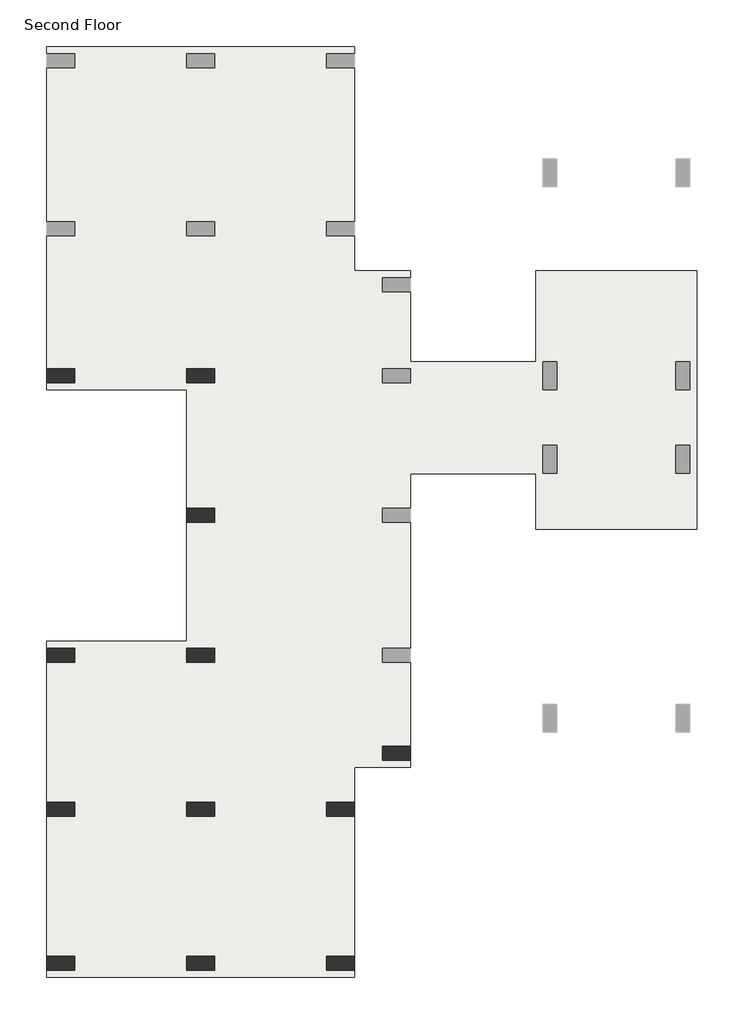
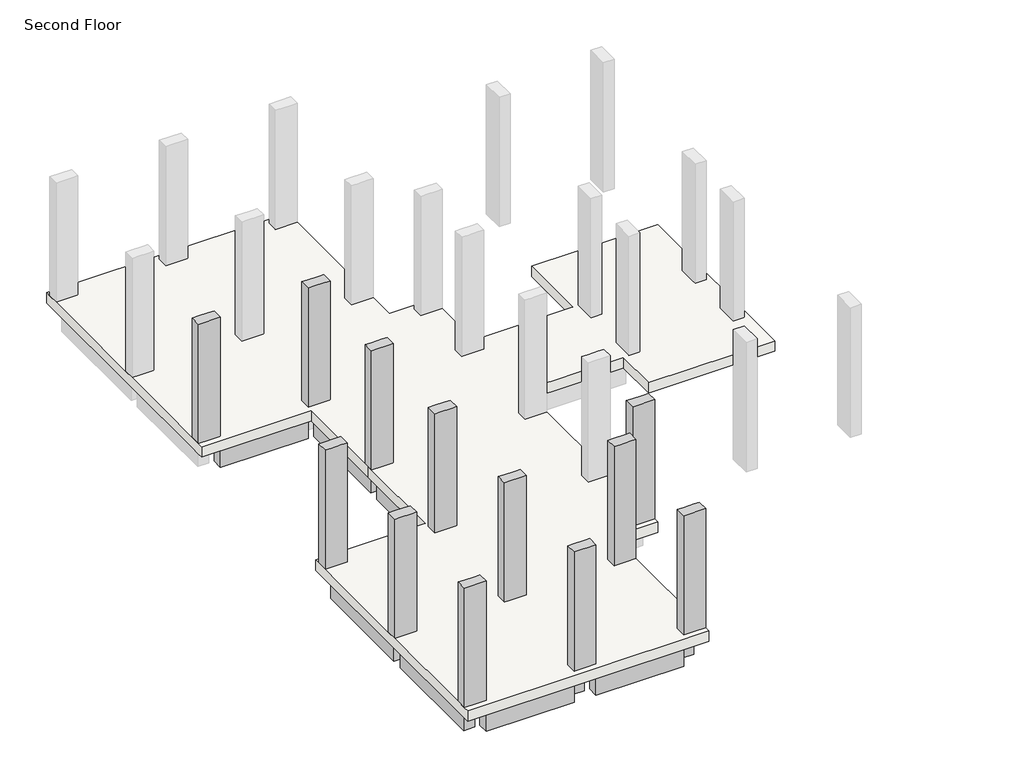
# One storey, part 1 of 2: 15 beams, 12 columns, 1 slab.
"""IFC4 building model written with IfcOpenShell, lengths in millimetres."""

from ifc_helpers import new_model, si_unit, frame, origin, place, context, project, spatial, polyline, outline, extrude, faceted_brep, element, save

model = new_model("IFC4")

# Units and contexts
model_context = context("Model", 3, world=origin())
ifc_project = project(units=[si_unit("LENGTHUNIT", "METRE", prefix="MILLI")], contexts=[model_context])

# Site, building, storey
site = spatial("IfcSite", under=ifc_project)
building = spatial("IfcBuilding", under=site)
storey = spatial("IfcBuildingStorey", under=building, Name="Second Floor", Elevation=3810.0)

# Beams
placement = place(None, origin())
element("IfcBeam", 1, ObjectType="Concrete-Rectangular Beam : 12 x 24", at=placement, inside=storey, context=model_context, shape_type="Brep", body=[
    faceted_brep([(-14712.4093661, 7313.9691779, 3505.2), (-14712.4093661, 7009.1691779, 3505.2), (-14407.6093661, 7009.1691779, 3505.2), (-13645.6093661, 7009.1691779, 3505.2), (-13645.6093661, 7313.9691779, 3505.2), (-14712.4093661, 7313.9691779, 2895.6), (-13645.6093661, 7313.9691779, 2895.6), (-14712.4093661, 7009.1691779, 2895.6), (-13645.6093661, 7009.1691779, 2895.6), (-14407.6093661, 7009.1691779, 2895.6)], [[[0, 1, 2, 3, 4]], [[5, 0, 4, 6]], [[7, 5, 6, 8, 9]], [[1, 7, 9, 8, 3, 2]], [[4, 3, 8, 6]], [[1, 0, 5, 7]]]),
])
element("IfcBeam", 2, ObjectType="Concrete-Rectangular Beam : 12 x 24", at=placement, inside=storey, context=model_context, shape_type="SweptSolid", body=[
    extrude(outline(polyline([(-14712.4093661, 7009.1691779), (-14407.6093661, 7009.1691779), (-14407.6093661, 6094.7691779), (-14712.4093661, 6094.7691779), (-14712.4093661, 7009.1691779)])), frame((0.0, 0.0, 2895.6), z_axis=(0.0, 0.0, 1.0), x_axis=(1.0, 0.0, 0.0)), (0.0, 0.0, 1.0), 609.6),
])
element("IfcBeam", 3, ObjectType="Concrete-Rectangular Beam : 12 x 24", at=placement, inside=storey, context=model_context, shape_type="SweptSolid", body=[
    extrude(outline(polyline([(-14407.6093661, 2741.9691779), (-14712.4093661, 2741.9691779), (-14712.4093661, 5789.9691779), (-14407.6093661, 5789.9691779), (-14407.6093661, 2741.9691779)])), frame((0.0, 0.0, 2895.6), z_axis=(0.0, 0.0, 1.0), x_axis=(1.0, 0.0, 0.0)), (0.0, 0.0, 1.0), 609.6),
])
element("IfcBeam", 4, ObjectType="Concrete-Rectangular Beam : 12 x 24", at=placement, inside=storey, context=model_context, shape_type="SweptSolid", body=[
    extrude(outline(polyline([(-17303.2093661, 2437.1691779), (-17303.2093661, 2741.9691779), (-14864.8093661, 2741.9691779), (-14864.8093661, 2437.1691779), (-17303.2093661, 2437.1691779)])), frame((0.0, 0.0, 2895.6), z_axis=(0.0, 0.0, 1.0), x_axis=(1.0, 0.0, 0.0)), (0.0, 0.0, 1.0), 609.6),
])
element("IfcBeam", 5, ObjectType="Concrete-Rectangular Beam : 12 x 24", at=placement, inside=storey, context=model_context, shape_type="SweptSolid", body=[
    extrude(outline(polyline([(-20351.2093661, 2437.1691779), (-20351.2093661, 2741.9691779), (-17912.8093661, 2741.9691779), (-17912.8093661, 2437.1691779), (-20351.2093661, 2437.1691779)])), frame((0.0, 0.0, 2895.6), z_axis=(0.0, 0.0, 1.0), x_axis=(1.0, 0.0, 0.0)), (0.0, 0.0, 1.0), 609.6),
])
element("IfcBeam", 6, ObjectType="Concrete-Rectangular Beam : 12 x 24", at=placement, inside=storey, context=model_context, shape_type="SweptSolid", body=[
    extrude(outline(polyline([(-20503.6093661, 2741.9691779), (-20808.4093661, 2741.9691779), (-20808.4093661, 5789.9691779), (-20503.6093661, 5789.9691779), (-20503.6093661, 2741.9691779)])), frame((0.0, 0.0, 2895.6), z_axis=(0.0, 0.0, 1.0), x_axis=(1.0, 0.0, 0.0)), (0.0, 0.0, 1.0), 609.6),
])
element("IfcBeam", 7, ObjectType="Concrete-Rectangular Beam : 12 x 24", at=placement, inside=storey, context=model_context, shape_type="SweptSolid", body=[
    extrude(outline(polyline([(-20808.4093661, 9142.7691779), (-20503.6093661, 9142.7691779), (-20503.6093661, 6094.7691779), (-20808.4093661, 6094.7691779), (-20808.4093661, 9142.7691779)])), frame((0.0, 0.0, 2895.6), z_axis=(0.0, 0.0, 1.0), x_axis=(1.0, 0.0, 0.0)), (0.0, 0.0, 1.0), 609.6),
])
element("IfcBeam", 8, ObjectType="Concrete-Rectangular Beam : 12 x 24", at=placement, inside=storey, context=model_context, shape_type="SweptSolid", body=[
    extrude(outline(polyline([(-20351.2093661, 9142.7691779), (-20351.2093661, 9447.5691779), (-17912.8093661, 9447.5691779), (-17912.8093661, 9142.7691779), (-20351.2093661, 9142.7691779)])), frame((0.0, 0.0, 2895.6), z_axis=(0.0, 0.0, 1.0), x_axis=(1.0, 0.0, 0.0)), (0.0, 0.0, 1.0), 609.6),
])
element("IfcBeam", 9, ObjectType="Concrete-Rectangular Beam : 12 x 24", at=placement, inside=storey, context=model_context, shape_type="SweptSolid", body=[
    extrude(outline(polyline([(-17760.4093661, 9142.7691779), (-17455.6093661, 9142.7691779), (-17455.6093661, 6094.7691779), (-17760.4093661, 6094.7691779), (-17760.4093661, 9142.7691779)])), frame((0.0, 0.0, 2895.6), z_axis=(0.0, 0.0, 1.0), x_axis=(1.0, 0.0, 0.0)), (0.0, 0.0, 1.0), 609.6),
])
element("IfcBeam", 10, ObjectType="Concrete-Rectangular Beam : 12 x 24", at=placement, inside=storey, context=model_context, shape_type="SweptSolid", body=[
    extrude(outline(polyline([(-17455.6093661, 2741.9691779), (-17760.4093661, 2741.9691779), (-17760.4093661, 5789.9691779), (-17455.6093661, 5789.9691779), (-17455.6093661, 2741.9691779)])), frame((0.0, 0.0, 2895.6), z_axis=(0.0, 0.0, 1.0), x_axis=(1.0, 0.0, 0.0)), (0.0, 0.0, 1.0), 609.6),
])
element("IfcBeam", 11, ObjectType="Concrete-Rectangular Beam : 12 x 24", at=placement, inside=storey, context=model_context, shape_type="SweptSolid", body=[
    extrude(outline(polyline([(-17455.6093661, 9447.5691779), (-17760.4093661, 9447.5691779), (-17760.4093661, 12190.7691779), (-17455.6093661, 12190.7691779), (-17455.6093661, 9447.5691779)])), frame((0.0, 0.0, 2895.6), z_axis=(0.0, 0.0, 1.0), x_axis=(1.0, 0.0, 0.0)), (0.0, 0.0, 1.0), 609.6),
])
element("IfcBeam", 12, ObjectType="Concrete-Rectangular Beam : 12 x 24", at=placement, inside=storey, context=model_context, shape_type="SweptSolid", body=[
    extrude(outline(polyline([(-17760.4093661, 15238.7691779), (-17455.6093661, 15238.7691779), (-17455.6093661, 12495.5691779), (-17760.4093661, 12495.5691779), (-17760.4093661, 15238.7691779)])), frame((0.0, 0.0, 2895.6), z_axis=(0.0, 0.0, 1.0), x_axis=(1.0, 0.0, 0.0)), (0.0, 0.0, 1.0), 609.6),
])
element("IfcBeam", 13, ObjectType="Concrete-Rectangular Beam : 12 x 24", at=placement, inside=storey, context=model_context, shape_type="SweptSolid", body=[
    extrude(outline(polyline([(-20351.2093661, 15238.7691779), (-20351.2093661, 15543.5691779), (-17912.8093661, 15543.5691779), (-17912.8093661, 15238.7691779), (-20351.2093661, 15238.7691779)])), frame((0.0, 0.0, 2895.6), z_axis=(0.0, 0.0, 1.0), x_axis=(1.0, 0.0, 0.0)), (0.0, 0.0, 1.0), 609.6),
])
element("IfcBeam", 14, ObjectType="Concrete-Rectangular Beam : 12 x 24", at=placement, inside=storey, context=model_context, shape_type="SweptSolid", body=[
    extrude(outline(polyline([(-20351.2093661, 5789.9691779), (-20351.2093661, 6094.7691779), (-17912.8093661, 6094.7691779), (-17912.8093661, 5789.9691779), (-20351.2093661, 5789.9691779)])), frame((0.0, 0.0, 2895.6), z_axis=(0.0, 0.0, 1.0), x_axis=(1.0, 0.0, 0.0)), (0.0, 0.0, 1.0), 609.6),
])
element("IfcBeam", 15, ObjectType="Concrete-Rectangular Beam : 12 x 24", at=placement, inside=storey, context=model_context, shape_type="SweptSolid", body=[
    extrude(outline(polyline([(-17303.2093661, 5789.9691779), (-17303.2093661, 6094.7691779), (-14864.8093661, 6094.7691779), (-14864.8093661, 5789.9691779), (-17303.2093661, 5789.9691779)])), frame((0.0, 0.0, 2895.6), z_axis=(0.0, 0.0, 1.0), x_axis=(1.0, 0.0, 0.0)), (0.0, 0.0, 1.0), 609.6),
])

# Columns
element("IfcColumn", 16, ObjectType="Concrete-Rectangular-Column : 12 x 24", at=placement, inside=storey, context=model_context, shape_type="Brep", body=[
    faceted_brep([(-20960.8093661, 15543.5691779, 3810.0), (-20351.2093661, 15543.5691779, 3810.0), (-20351.2093661, 15238.7691779, 3810.0), (-20960.8093661, 15238.7691779, 3810.0), (-20960.8093661, 15543.5691779, 7315.2), (-20808.4093661, 15543.5691779, 7315.2), (-20503.6093661, 15543.5691779, 7315.2), (-20351.2093661, 15543.5691779, 7315.2), (-20351.2093661, 15543.5691779, 6705.6), (-20351.2093661, 15238.7691779, 7315.2), (-20351.2093661, 15238.7691779, 6705.6), (-20960.8093661, 15238.7691779, 7315.2)], [[[0, 1, 2, 3]], [[4, 5, 6, 7, 8, 1, 0]], [[7, 9, 10, 2, 1, 8]], [[9, 11, 3, 2, 10]], [[11, 4, 0, 3]], [[4, 11, 9, 7, 6, 5]]]),
])
element("IfcColumn", 17, ObjectType="Concrete-Rectangular-Column : 12 x 24", at=placement, inside=storey, context=model_context, shape_type="Brep", body=[
    faceted_brep([(-17912.8093661, 15543.5691779, 3810.0), (-17303.2093661, 15543.5691779, 3810.0), (-17303.2093661, 15238.7691779, 3810.0), (-17912.8093661, 15238.7691779, 3810.0), (-17912.8093661, 15543.5691779, 7315.2), (-17760.4093661, 15543.5691779, 7315.2), (-17455.6093661, 15543.5691779, 7315.2), (-17303.2093661, 15543.5691779, 7315.2), (-17303.2093661, 15543.5691779, 6705.6), (-17912.8093661, 15543.5691779, 6705.6), (-17303.2093661, 15238.7691779, 7315.2), (-17303.2093661, 15238.7691779, 6705.6), (-17455.6093661, 15238.7691779, 7315.2), (-17760.4093661, 15238.7691779, 7315.2), (-17912.8093661, 15238.7691779, 7315.2), (-17912.8093661, 15238.7691779, 6705.6)], [[[0, 1, 2, 3]], [[4, 5, 6, 7, 8, 1, 0, 9]], [[7, 10, 11, 2, 1, 8]], [[10, 12, 13, 14, 15, 3, 2, 11]], [[14, 4, 9, 0, 3, 15]], [[4, 14, 13, 12, 10, 7, 6, 5]]]),
])
element("IfcColumn", 18, ObjectType="Concrete-Rectangular-Column : 12 x 24", at=placement, inside=storey, context=model_context, shape_type="Brep", body=[
    faceted_brep([(-17912.8093661, 12495.5691779, 3810.0), (-17303.2093661, 12495.5691779, 3810.0), (-17303.2093661, 12190.7691779, 3810.0), (-17912.8093661, 12190.7691779, 3810.0), (-17912.8093661, 12343.1691779, 3810.0), (-17912.8093661, 12495.5691779, 7315.2), (-17760.4093661, 12495.5691779, 7315.2), (-17455.6093661, 12495.5691779, 7315.2), (-17303.2093661, 12495.5691779, 7315.2), (-17303.2093661, 12495.5691779, 6705.6), (-17303.2093661, 12190.7691779, 7315.2), (-17303.2093661, 12190.7691779, 6705.6), (-17455.6093661, 12190.7691779, 7315.2), (-17760.4093661, 12190.7691779, 7315.2), (-17912.8093661, 12190.7691779, 7315.2), (-17912.8093661, 12343.1691779, 7315.2)], [[[0, 1, 2, 3, 4]], [[5, 6, 7, 8, 9, 1, 0]], [[8, 10, 11, 2, 1, 9]], [[10, 12, 13, 14, 3, 2, 11]], [[14, 15, 5, 0, 4, 3]], [[5, 15, 14, 13, 12, 10, 8, 7, 6]]]),
])
element("IfcColumn", 19, ObjectType="Concrete-Rectangular-Column : 12 x 24", at=placement, inside=storey, context=model_context, shape_type="Brep", body=[
    faceted_brep([(-20960.8093661, 9447.5691779, 3810.0), (-20351.2093661, 9447.5691779, 3810.0), (-20351.2093661, 9142.7691779, 3810.0), (-20960.8093661, 9142.7691779, 3810.0), (-20960.8093661, 9447.5691779, 7315.2), (-20351.2093661, 9447.5691779, 7315.2), (-20351.2093661, 9447.5691779, 6705.6), (-20351.2093661, 9142.7691779, 7315.2), (-20351.2093661, 9142.7691779, 6705.6), (-20503.6093661, 9142.7691779, 7315.2), (-20808.4093661, 9142.7691779, 7315.2), (-20960.8093661, 9142.7691779, 7315.2)], [[[0, 1, 2, 3]], [[4, 5, 6, 1, 0]], [[5, 7, 8, 2, 1, 6]], [[7, 9, 10, 11, 3, 2, 8]], [[11, 4, 0, 3]], [[4, 11, 10, 9, 7, 5]]]),
])
element("IfcColumn", 20, ObjectType="Concrete-Rectangular-Column : 12 x 24", at=placement, inside=storey, context=model_context, shape_type="Brep", body=[
    faceted_brep([(-17912.8093661, 9447.5691779, 3810.0), (-17303.2093661, 9447.5691779, 3810.0), (-17303.2093661, 9142.7691779, 3810.0), (-17912.8093661, 9142.7691779, 3810.0), (-17912.8093661, 9447.5691779, 7315.2), (-17760.4093661, 9447.5691779, 7315.2), (-17455.6093661, 9447.5691779, 7315.2), (-17303.2093661, 9447.5691779, 7315.2), (-17303.2093661, 9447.5691779, 6705.6), (-17912.8093661, 9447.5691779, 6705.6), (-17303.2093661, 9142.7691779, 7315.2), (-17303.2093661, 9142.7691779, 6705.6), (-17455.6093661, 9142.7691779, 7315.2), (-17760.4093661, 9142.7691779, 7315.2), (-17912.8093661, 9142.7691779, 7315.2), (-17912.8093661, 9142.7691779, 6705.6)], [[[0, 1, 2, 3]], [[4, 5, 6, 7, 8, 1, 0, 9]], [[7, 10, 11, 2, 1, 8]], [[10, 12, 13, 14, 15, 3, 2, 11]], [[14, 4, 9, 0, 3, 15]], [[4, 14, 13, 12, 10, 7, 6, 5]]]),
])
element("IfcColumn", 21, ObjectType="Concrete-Rectangular-Column : 12 x 24", at=placement, inside=storey, context=model_context, shape_type="Brep", body=[
    faceted_brep([(-20960.8093661, 2741.9691779, 3810.0), (-20351.2093661, 2741.9691779, 3810.0), (-20351.2093661, 2437.1691779, 3810.0), (-20960.8093661, 2437.1691779, 3810.0), (-20960.8093661, 2741.9691779, 7315.2), (-20808.4093661, 2741.9691779, 7315.2), (-20503.6093661, 2741.9691779, 7315.2), (-20351.2093661, 2741.9691779, 7315.2), (-20351.2093661, 2741.9691779, 6705.6), (-20351.2093661, 2437.1691779, 7315.2), (-20351.2093661, 2437.1691779, 6705.6), (-20960.8093661, 2437.1691779, 7315.2)], [[[0, 1, 2, 3]], [[4, 5, 6, 7, 8, 1, 0]], [[7, 9, 10, 2, 1, 8]], [[9, 11, 3, 2, 10]], [[11, 4, 0, 3]], [[4, 11, 9, 7, 6, 5]]]),
])
element("IfcColumn", 22, ObjectType="Concrete-Rectangular-Column : 12 x 24", at=placement, inside=storey, context=model_context, shape_type="Brep", body=[
    faceted_brep([(-17912.8093661, 2741.9691779, 3810.0), (-17303.2093661, 2741.9691779, 3810.0), (-17303.2093661, 2437.1691779, 3810.0), (-17912.8093661, 2437.1691779, 3810.0), (-17912.8093661, 2741.9691779, 7315.2), (-17760.4093661, 2741.9691779, 7315.2), (-17455.6093661, 2741.9691779, 7315.2), (-17303.2093661, 2741.9691779, 7315.2), (-17303.2093661, 2741.9691779, 6705.6), (-17912.8093661, 2741.9691779, 6705.6), (-17303.2093661, 2437.1691779, 7315.2), (-17303.2093661, 2437.1691779, 6705.6), (-17912.8093661, 2437.1691779, 7315.2), (-17912.8093661, 2437.1691779, 6705.6)], [[[0, 1, 2, 3]], [[4, 5, 6, 7, 8, 1, 0, 9]], [[7, 10, 11, 2, 1, 8]], [[10, 12, 13, 3, 2, 11]], [[12, 4, 9, 0, 3, 13]], [[4, 12, 10, 7, 6, 5]]]),
])
element("IfcColumn", 23, ObjectType="Concrete-Rectangular-Column : 12 x 24", at=placement, inside=storey, context=model_context, shape_type="Brep", body=[
    faceted_brep([(-14864.8093661, 2741.9691779, 3810.0), (-14255.2093661, 2741.9691779, 3810.0), (-14255.2093661, 2437.1691779, 3810.0), (-14864.8093661, 2437.1691779, 3810.0), (-14864.8093661, 2741.9691779, 7315.2), (-14712.4093661, 2741.9691779, 7315.2), (-14407.6093661, 2741.9691779, 7315.2), (-14255.2093661, 2741.9691779, 7315.2), (-14864.8093661, 2741.9691779, 6705.6), (-14255.2093661, 2437.1691779, 7315.2), (-14864.8093661, 2437.1691779, 7315.2), (-14864.8093661, 2437.1691779, 6705.6)], [[[0, 1, 2, 3]], [[4, 5, 6, 7, 1, 0, 8]], [[7, 9, 2, 1]], [[9, 10, 11, 3, 2]], [[10, 4, 8, 0, 3, 11]], [[4, 10, 9, 7, 6, 5]]]),
])
element("IfcColumn", 24, ObjectType="Concrete-Rectangular-Column : 12 x 24", at=placement, inside=storey, context=model_context, shape_type="Brep", body=[
    faceted_brep([(-20960.8093661, 6094.7691779, 3810.0), (-20351.2093661, 6094.7691779, 3810.0), (-20351.2093661, 5789.9691779, 3810.0), (-20960.8093661, 5789.9691779, 3810.0), (-20960.8093661, 6094.7691779, 7315.2), (-20808.4093661, 6094.7691779, 7315.2), (-20503.6093661, 6094.7691779, 7315.2), (-20351.2093661, 6094.7691779, 7315.2), (-20351.2093661, 6094.7691779, 6705.6), (-20351.2093661, 5789.9691779, 7315.2), (-20351.2093661, 5789.9691779, 6705.6), (-20503.6093661, 5789.9691779, 7315.2), (-20808.4093661, 5789.9691779, 7315.2), (-20960.8093661, 5789.9691779, 7315.2)], [[[0, 1, 2, 3]], [[4, 5, 6, 7, 8, 1, 0]], [[7, 9, 10, 2, 1, 8]], [[9, 11, 12, 13, 3, 2, 10]], [[13, 4, 0, 3]], [[4, 13, 12, 11, 9, 7, 6, 5]]]),
])
element("IfcColumn", 25, ObjectType="Concrete-Rectangular-Column : 12 x 24", at=placement, inside=storey, context=model_context, shape_type="Brep", body=[
    faceted_brep([(-17912.8093661, 6094.7691779, 3810.0), (-17303.2093661, 6094.7691779, 3810.0), (-17303.2093661, 5789.9691779, 3810.0), (-17912.8093661, 5789.9691779, 3810.0), (-17912.8093661, 6094.7691779, 7315.2), (-17760.4093661, 6094.7691779, 7315.2), (-17455.6093661, 6094.7691779, 7315.2), (-17303.2093661, 6094.7691779, 7315.2), (-17303.2093661, 6094.7691779, 6705.6), (-17912.8093661, 6094.7691779, 6705.6), (-17303.2093661, 5789.9691779, 7315.2), (-17303.2093661, 5789.9691779, 6705.6), (-17455.6093661, 5789.9691779, 7315.2), (-17760.4093661, 5789.9691779, 7315.2), (-17912.8093661, 5789.9691779, 7315.2), (-17912.8093661, 5789.9691779, 6705.6)], [[[0, 1, 2, 3]], [[4, 5, 6, 7, 8, 1, 0, 9]], [[7, 10, 11, 2, 1, 8]], [[10, 12, 13, 14, 15, 3, 2, 11]], [[14, 4, 9, 0, 3, 15]], [[4, 14, 13, 12, 10, 7, 6, 5]]]),
])
element("IfcColumn", 26, ObjectType="Concrete-Rectangular-Column : 12 x 24", at=placement, inside=storey, context=model_context, shape_type="Brep", body=[
    faceted_brep([(-14864.8093661, 6094.7691779, 3810.0), (-14255.2093661, 6094.7691779, 3810.0), (-14255.2093661, 5789.9691779, 3810.0), (-14864.8093661, 5789.9691779, 3810.0), (-14864.8093661, 6094.7691779, 7315.2), (-14712.4093661, 6094.7691779, 7315.2), (-14407.6093661, 6094.7691779, 7315.2), (-14255.2093661, 6094.7691779, 7315.2), (-14864.8093661, 6094.7691779, 6705.6), (-14255.2093661, 5789.9691779, 7315.2), (-14407.6093661, 5789.9691779, 7315.2), (-14712.4093661, 5789.9691779, 7315.2), (-14864.8093661, 5789.9691779, 7315.2), (-14864.8093661, 5789.9691779, 6705.6)], [[[0, 1, 2, 3]], [[4, 5, 6, 7, 1, 0, 8]], [[7, 9, 2, 1]], [[9, 10, 11, 12, 13, 3, 2]], [[12, 4, 8, 0, 3, 13]], [[4, 12, 11, 10, 9, 7, 6, 5]]]),
])
element("IfcColumn", 27, ObjectType="Concrete-Rectangular-Column : 12 x 24", at=placement, inside=storey, context=model_context, shape_type="Brep", body=[
    faceted_brep([(-13645.6093661, 7313.9691779, 3810.0), (-13036.0093661, 7313.9691779, 3810.0), (-13036.0093661, 7009.1691779, 3810.0), (-13645.6093661, 7009.1691779, 3810.0), (-13645.6093661, 7313.9691779, 7315.2), (-13493.2093661, 7313.9691779, 7315.2), (-13188.4093661, 7313.9691779, 7315.2), (-13036.0093661, 7313.9691779, 7315.2), (-13645.6093661, 7313.9691779, 6705.6), (-13036.0093661, 7009.1691779, 7315.2), (-13645.6093661, 7009.1691779, 7315.2), (-13645.6093661, 7009.1691779, 6705.6)], [[[0, 1, 2, 3]], [[4, 5, 6, 7, 1, 0, 8]], [[7, 9, 2, 1]], [[9, 10, 11, 3, 2]], [[10, 4, 8, 0, 3, 11]], [[4, 10, 9, 7, 6, 5]]]),
])

# Slab
element("IfcSlab", 28, ObjectType="Generic - 12\"", at=placement, inside=storey, context=model_context, shape_type="Brep", body=[
    faceted_brep([(-14255.2093661, 22553.9691779, 3505.2), (-14255.2093661, 22401.5691779, 3505.2), (-14255.2093661, 22096.7691779, 3505.2), (-14255.2093661, 18743.9691779, 3505.2), (-14255.2093661, 18439.1691779, 3505.2), (-14255.2093661, 17677.1691779, 3505.2), (-13036.0093661, 17677.1691779, 3505.2), (-13036.0093661, 17524.7691779, 3505.2), (-13036.0093661, 17219.9691779, 3505.2), (-13036.0093661, 15695.9691779, 3505.2), (-10292.8093661, 15695.9691779, 3505.2), (-10292.8093661, 17677.1691779, 3505.2), (-6787.6093661, 17677.1691779, 3505.2), (-6787.6093661, 12038.3691779, 3505.2), (-10292.8093661, 12038.3691779, 3505.2), (-10292.8093661, 13257.5691779, 3505.2), (-13036.0093661, 13257.5691779, 3505.2), (-13036.0093661, 12495.5691779, 3505.2), (-13036.0093661, 12190.7691779, 3505.2), (-13036.0093661, 9447.5691779, 3505.2), (-13036.0093661, 9142.7691779, 3505.2), (-13036.0093661, 7313.9691779, 3505.2), (-13036.0093661, 7009.1691779, 3505.2), (-13036.0093661, 6856.7691779, 3505.2), (-14255.2093661, 6856.7691779, 3505.2), (-14255.2093661, 6094.7691779, 3505.2), (-14255.2093661, 5789.9691779, 3505.2), (-14255.2093661, 2741.9691779, 3505.2), (-14255.2093661, 2437.1691779, 3505.2), (-14255.2093661, 2284.7691779, 3505.2), (-20960.8093661, 2284.7691779, 3505.2), (-20960.8093661, 2437.1691779, 3505.2), (-20960.8093661, 2741.9691779, 3505.2), (-20960.8093661, 5789.9691779, 3505.2), (-20960.8093661, 6094.7691779, 3505.2), (-20960.8093661, 9142.7691779, 3505.2), (-20960.8093661, 9447.5691779, 3505.2), (-20960.8093661, 9599.9691779, 3505.2), (-17912.8093661, 9599.9691779, 3505.2), (-17912.8093661, 12190.7691779, 3505.2), (-17912.8093661, 12343.1691779, 3505.2), (-17912.8093661, 12495.5691779, 3505.2), (-17912.8093661, 15086.3691779, 3505.2), (-20960.8093661, 15086.3691779, 3505.2), (-20960.8093661, 15238.7691779, 3505.2), (-20960.8093661, 15543.5691779, 3505.2), (-20960.8093661, 18439.1691779, 3505.2), (-20960.8093661, 18743.9691779, 3505.2), (-20960.8093661, 22096.7691779, 3505.2), (-20960.8093661, 22401.5691779, 3505.2), (-20960.8093661, 22553.9691779, 3505.2), (-14255.2093661, 22553.9691779, 3810.0), (-20960.8093661, 22553.9691779, 3810.0), (-20960.8093661, 22401.5691779, 3810.0), (-20960.8093661, 22096.7691779, 3810.0), (-20960.8093661, 18743.9691779, 3810.0), (-20960.8093661, 18439.1691779, 3810.0), (-20960.8093661, 15543.5691779, 3810.0), (-20960.8093661, 15238.7691779, 3810.0), (-20960.8093661, 15086.3691779, 3810.0), (-17912.8093661, 15086.3691779, 3810.0), (-17912.8093661, 12495.5691779, 3810.0), (-17912.8093661, 12343.1691779, 3810.0), (-17912.8093661, 12190.7691779, 3810.0), (-17912.8093661, 9599.9691779, 3810.0), (-20960.8093661, 9599.9691779, 3810.0), (-20960.8093661, 9447.5691779, 3810.0), (-20960.8093661, 9142.7691779, 3810.0), (-20960.8093661, 6094.7691779, 3810.0), (-20960.8093661, 5789.9691779, 3810.0), (-20960.8093661, 2741.9691779, 3810.0), (-20960.8093661, 2437.1691779, 3810.0), (-20960.8093661, 2284.7691779, 3810.0), (-14255.2093661, 2284.7691779, 3810.0), (-14255.2093661, 2437.1691779, 3810.0), (-14255.2093661, 2741.9691779, 3810.0), (-14255.2093661, 5789.9691779, 3810.0), (-14255.2093661, 6094.7691779, 3810.0), (-14255.2093661, 6856.7691779, 3810.0), (-13036.0093661, 6856.7691779, 3810.0), (-13036.0093661, 7009.1691779, 3810.0), (-13036.0093661, 7313.9691779, 3810.0), (-13036.0093661, 9142.7691779, 3810.0), (-13036.0093661, 9447.5691779, 3810.0), (-13036.0093661, 12190.7691779, 3810.0), (-13036.0093661, 12495.5691779, 3810.0), (-13036.0093661, 13257.5691779, 3810.0), (-10292.8093661, 13257.5691779, 3810.0), (-10292.8093661, 12038.3691779, 3810.0), (-6787.6093661, 12038.3691779, 3810.0), (-6787.6093661, 17677.1691779, 3810.0), (-10292.8093661, 17677.1691779, 3810.0), (-10292.8093661, 15695.9691779, 3810.0), (-13036.0093661, 15695.9691779, 3810.0), (-13036.0093661, 17219.9691779, 3810.0), (-13036.0093661, 17524.7691779, 3810.0), (-13036.0093661, 17677.1691779, 3810.0), (-14255.2093661, 17677.1691779, 3810.0), (-14255.2093661, 18439.1691779, 3810.0), (-14255.2093661, 18743.9691779, 3810.0), (-14255.2093661, 22096.7691779, 3810.0), (-14255.2093661, 22401.5691779, 3810.0)], [[[0, 1, 2, 3, 4, 5, 6, 7, 8, 9, 10, 11, 12, 13, 14, 15, 16, 17, 18, 19, 20, 21, 22, 23, 24, 25, 26, 27, 28, 29, 30, 31, 32, 33, 34, 35, 36, 37, 38, 39, 40, 41, 42, 43, 44, 45, 46, 47, 48, 49, 50]], [[51, 52, 53, 54, 55, 56, 57, 58, 59, 60, 61, 62, 63, 64, 65, 66, 67, 68, 69, 70, 71, 72, 73, 74, 75, 76, 77, 78, 79, 80, 81, 82, 83, 84, 85, 86, 87, 88, 89, 90, 91, 92, 93, 94, 95, 96, 97, 98, 99, 100, 101]], [[5, 4, 3, 2, 1, 0, 51, 101, 100, 99, 98, 97]], [[6, 5, 97, 96]], [[9, 8, 7, 6, 96, 95, 94, 93]], [[10, 9, 93, 92]], [[11, 10, 92, 91]], [[12, 11, 91, 90]], [[13, 12, 90, 89]], [[14, 13, 89, 88]], [[15, 14, 88, 87]], [[16, 15, 87, 86]], [[23, 22, 21, 20, 19, 18, 17, 16, 86, 85, 84, 83, 82, 81, 80, 79]], [[24, 23, 79, 78]], [[29, 28, 27, 26, 25, 24, 78, 77, 76, 75, 74, 73]], [[30, 29, 73, 72]], [[37, 36, 35, 34, 33, 32, 31, 30, 72, 71, 70, 69, 68, 67, 66, 65]], [[38, 37, 65, 64]], [[40, 39, 38, 64, 63, 62]], [[42, 41, 40, 62, 61, 60]], [[43, 42, 60, 59]], [[50, 49, 48, 47, 46, 45, 44, 43, 59, 58, 57, 56, 55, 54, 53, 52]], [[0, 50, 52, 51]]]),
])

save(model, "model.ifc")
